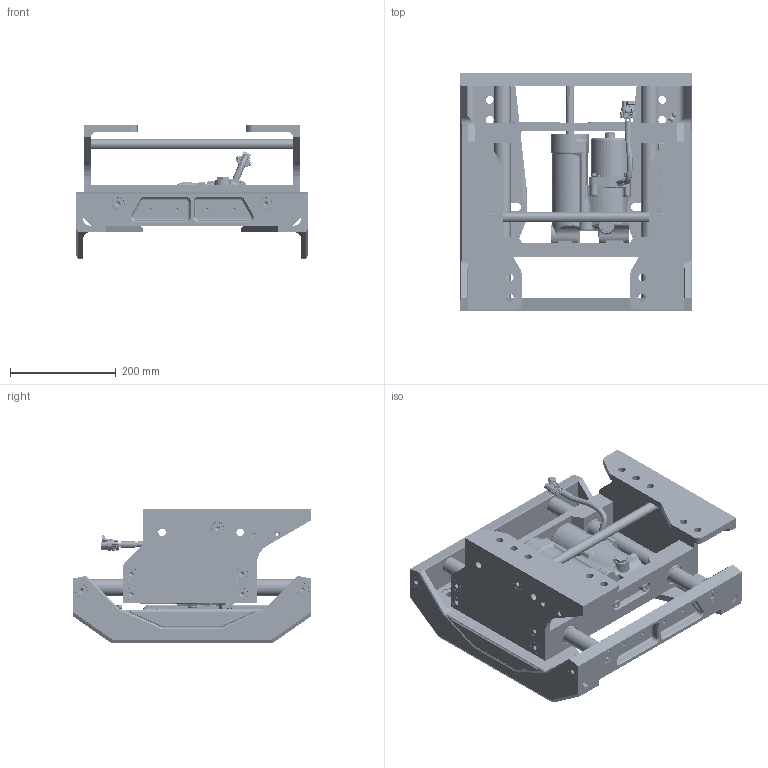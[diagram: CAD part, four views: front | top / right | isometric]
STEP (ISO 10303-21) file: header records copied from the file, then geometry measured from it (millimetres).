
FILE_DESCRIPTION((''),'2;1');
FILE_NAME('470108_ASM','2018-04-27T15:51:24',('dbaros'),(''),'CREO PARAMETRIC BY PTC INC, 2017260','CREO PARAMETRIC BY PTC INC, 2017260','');
FILE_SCHEMA(('CONFIG_CONTROL_DESIGN'));
Length unit declared in the file: inch
Products named in the file (84): 469713; 469721; 469722; 469714; 469014; 550305; 083521; 431727; 451201; 791025; 451040; 451311; 004923; 550308_AF0; 550307; 550337; 550500_ASM; 451306; 550315; 451640_COMPRESSED; 451026; 211039; 452008_AF0; 455082; 548761; 451124; 872018; 791222; 872019; 469104; 469140; 451701; 014624; 211133; 452720; 454180; 469110; 469100_ASM; 552055; 798021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
Assembly tree (148 placements, depth 4):
  470108_ASM
    469713
    469721
    469722
    469714
    469300_ASM
      469014
      550305  x4
      083521
      431727
      451201
      791025
      451040
      451311  x2
      004923  x2
      550500_ASM  x2
        550308_AF0
        550307
        550337
      451306  x2
      550315  x2
      451640_COMPRESSED  x2
      451026
      211039
      452008_AF0
      455082  x4
      548761  x4
      469100_ASM
        451124
        872018
        791222
        872019
        469104
        469140
        451701  x2
        014624
        211133
        452720
        454180
        469110
      798075_ASM
        552055
        798021
        452525
        550324  x2
        551112
        550530  x2
        550525  x2
        251625  x2
        004622  x2
      550530  x2
      799061  x2
      451222
      451001
      480011
      469620
      998837
      950722
      305458
      651037_JP  x2
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Bounding box: 438.15 x 450.85 x 254 mm (x, y, z)
Volume: 7391369 mm3; surface area: 1558268.6 mm2
Topology: 143 solids, 144 shells, 6937 faces, 16359 edges, 9864 vertices
Faces by surface type: cylinder 1992, plane 1941, cone 1115, torus 893, bspline 700, extrusion 205, sphere 91
Entity records: 213006 total; most frequent: CARTESIAN_POINT 83573, ORIENTED_EDGE 26810, DIRECTION 26638, EDGE_CURVE 13405, AXIS2_PLACEMENT_3D 10610, VERTEX_POINT 8168, EDGE_LOOP 6131, FACE_OUTER_BOUND 5617
